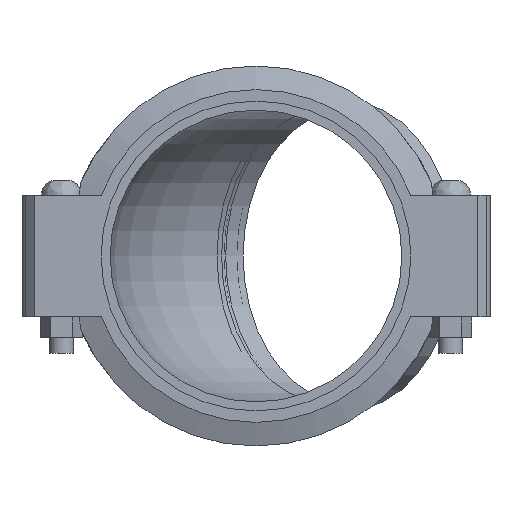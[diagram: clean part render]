
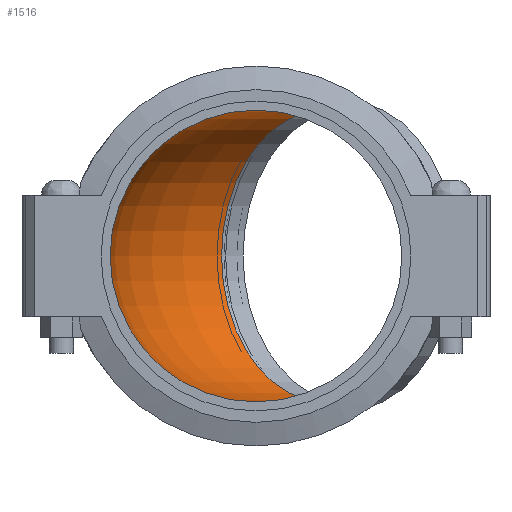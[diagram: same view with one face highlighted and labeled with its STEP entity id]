
A CAD part, left-side view. The second image highlights one B-rep face of the part: STEP entity #1516.
In plain terms, the highlighted toroidal (fillet/blend) face has major radius 245.284 mm and minor radius 152.4 mm.
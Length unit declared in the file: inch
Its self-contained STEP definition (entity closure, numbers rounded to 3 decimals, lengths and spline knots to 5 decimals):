
#60=TOROIDAL_SURFACE('',#1727,9.65685,6.);
#303=FACE_OUTER_BOUND('',#394,.T.);
#394=EDGE_LOOP('',(#980,#981,#982,#983,#984,#985));
#511=CIRCLE('',#1728,6.);
#512=CIRCLE('',#1729,6.);
#513=CIRCLE('',#1730,3.65685);
#514=CIRCLE('',#1731,6.);
#515=CIRCLE('',#1732,6.);
#611=VERTEX_POINT('',#2409);
#612=VERTEX_POINT('',#2410);
#613=VERTEX_POINT('',#2413);
#614=VERTEX_POINT('',#2415);
#761=EDGE_CURVE('',#611,#612,#511,.T.);
#762=EDGE_CURVE('',#612,#611,#512,.T.);
#763=EDGE_CURVE('',#611,#613,#513,.T.);
#764=EDGE_CURVE('',#613,#614,#514,.T.);
#765=EDGE_CURVE('',#614,#613,#515,.T.);
#980=ORIENTED_EDGE('',*,*,#761,.T.);
#981=ORIENTED_EDGE('',*,*,#762,.T.);
#982=ORIENTED_EDGE('',*,*,#763,.T.);
#983=ORIENTED_EDGE('',*,*,#764,.T.);
#984=ORIENTED_EDGE('',*,*,#765,.T.);
#985=ORIENTED_EDGE('',*,*,#763,.F.);
#1516=ADVANCED_FACE('',(#303),#60,.F.);
#1727=AXIS2_PLACEMENT_3D('',#2408,#1943,#1944);
#1728=AXIS2_PLACEMENT_3D('',#2411,#1945,#1946);
#1729=AXIS2_PLACEMENT_3D('',#2412,#1947,#1948);
#1730=AXIS2_PLACEMENT_3D('',#2414,#1949,#1950);
#1731=AXIS2_PLACEMENT_3D('',#2416,#1951,#1952);
#1732=AXIS2_PLACEMENT_3D('',#2417,#1953,#1954);
#1943=DIRECTION('center_axis',(0.,0.,-1.));
#1944=DIRECTION('ref_axis',(-1.,0.,0.));
#1945=DIRECTION('center_axis',(0.,-1.,0.));
#1946=DIRECTION('ref_axis',(1.,0.,0.));
#1947=DIRECTION('center_axis',(0.,-1.,0.));
#1948=DIRECTION('ref_axis',(1.,0.,0.));
#1949=DIRECTION('center_axis',(0.,0.,-1.));
#1950=DIRECTION('ref_axis',(-1.,0.,0.));
#1951=DIRECTION('center_axis',(0.707,0.707,0.));
#1952=DIRECTION('ref_axis',(0.707,-0.707,0.));
#1953=DIRECTION('center_axis',(0.707,0.707,0.));
#1954=DIRECTION('ref_axis',(0.707,-0.707,0.));
#2408=CARTESIAN_POINT('Origin',(9.65685,1.25,0.));
#2409=CARTESIAN_POINT('',(6.,1.25,0.));
#2410=CARTESIAN_POINT('',(-6.,1.25,0.));
#2411=CARTESIAN_POINT('Origin',(0.,1.25,0.));
#2412=CARTESIAN_POINT('Origin',(0.,1.25,0.));
#2413=CARTESIAN_POINT('',(7.07107,3.83579,0.));
#2414=CARTESIAN_POINT('Origin',(9.65685,1.25,0.));
#2415=CARTESIAN_POINT('',(-1.41421,12.32107,0.));
#2416=CARTESIAN_POINT('Origin',(2.82843,8.07843,0.));
#2417=CARTESIAN_POINT('Origin',(2.82843,8.07843,0.));
